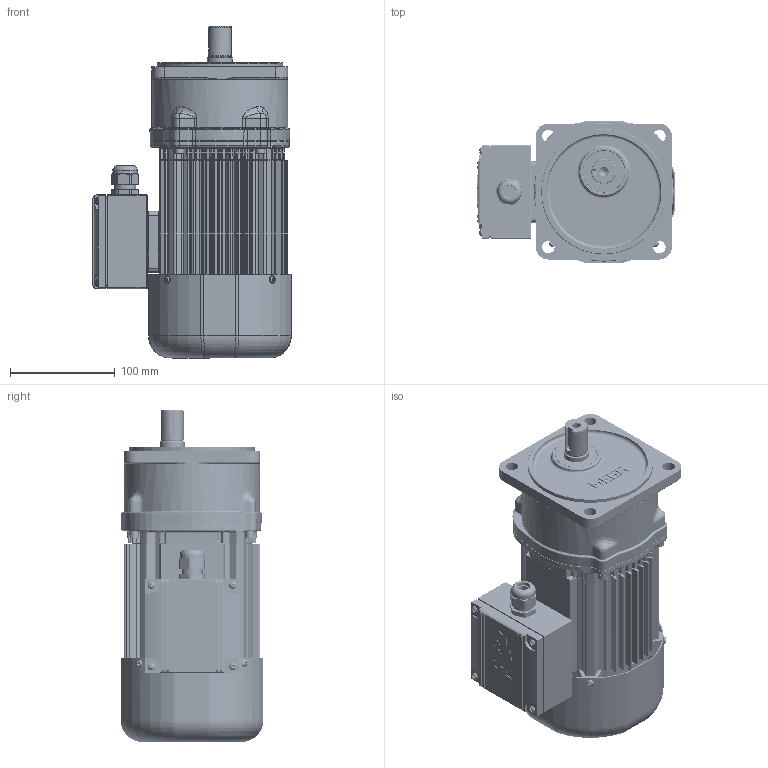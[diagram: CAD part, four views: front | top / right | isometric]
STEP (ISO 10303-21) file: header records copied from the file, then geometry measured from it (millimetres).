
FILE_DESCRIPTION(/* description */ (''),/* implementation_level */ '2;1');
FILE_NAME(/* name */ 'Z:\동력 3D 파일\PMK88_0.2kW_Brake_3D.stp',/* time_stamp */ '2021-11-18T15:57:55+09:00',/* author */ ('jaebok'),/* organization */ (''),/* preprocessor_version */ 'ST-DEVELOPER v18.1',/* originating_system */ 'Autodesk Inventor 2022',/* authorisation */ '');
FILE_SCHEMA (('AUTOMOTIVE_DESIGN { 1 0 10303 214 3 1 1 }'));
Products named in the file (1): 부품4
Bounding box: 189.7 x 136.4 x 317.5 mm (x, y, z)
Volume: 1395984 mm3; surface area: 526180.5 mm2
Topology: 2 solids, 33 shells, 3630 faces, 9065 edges, 5426 vertices
Faces by surface type: plane 1173, cylinder 957, bspline 885, torus 349, cone 204, sphere 62
Full cylindrical faces by diameter (mm): 1.5 x2, 2 x5, 3 x4, 3.242 x4, 3.25 x1, 3.3 x8, 3.6 x4, 3.8 x3, 4 x21, 4.2 x12, 5 x29, 5.5 x4, 5.8 x2, 5.9 x3, 6 x10, 6.4 x1, 6.5 x6, 7 x12, 7.9 x6, 8 x9, 8.5 x5, 8.7 x1, 10 x1, 11 x1, 12 x4, 12.5 x1, 14 x1, 15 x1, 16 x1, 19 x1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
Entity records: 145356 total; most frequent: CARTESIAN_POINT 60880, ORIENTED_EDGE 17690, DIRECTION 15766, EDGE_CURVE 8845, AXIS2_PLACEMENT_3D 6347, VERTEX_POINT 5422, EDGE_LOOP 3911, FACE_OUTER_BOUND 3630
